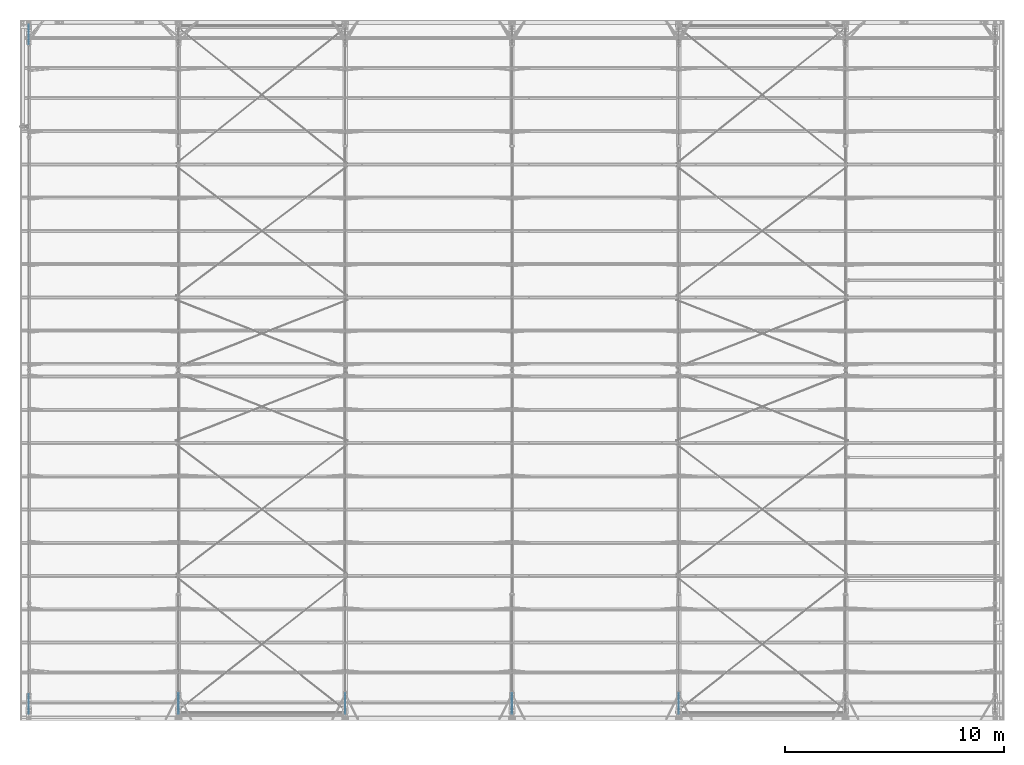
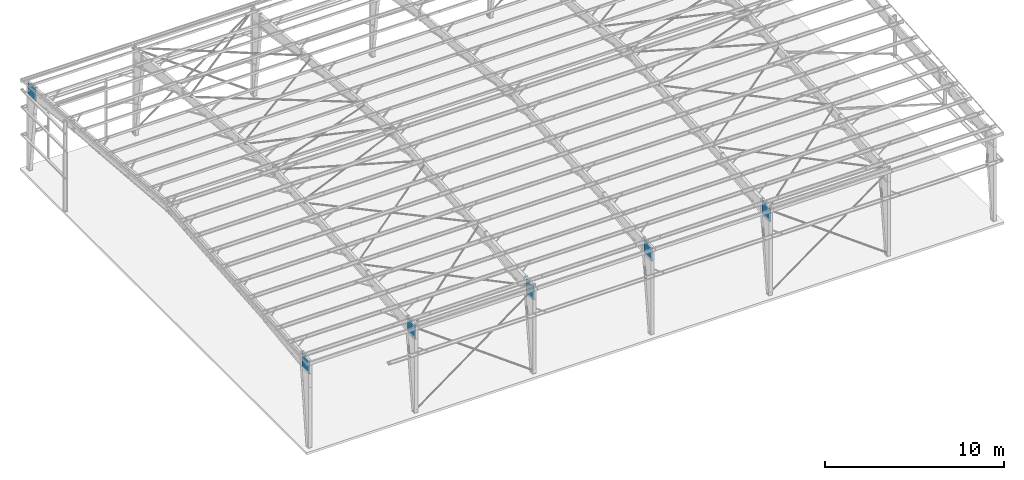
# One storey, part 1 of 185: 6 columns, 6 elements without a shape of their own.
"""IFC2X3 building model written with IfcOpenShell, lengths in millimetres."""

from ifc_helpers import new_model, si_unit, frame, origin_with_axes, origin_2d_with_axis, place, context, subcontext, project, spatial, rectangle, extrude, clip, halfspace, material, type_object, element, aggregate, save


model = new_model("IFC2X3")

# Units and contexts
model_context = context("Model", 3, precision=1e-05, world=origin_with_axes())
body_context = subcontext(model_context, "Body", "Model", "MODEL_VIEW")
ifc_project = project(units=[si_unit("LENGTHUNIT", "METRE", prefix="MILLI"), si_unit("AREAUNIT", "SQUARE_METRE"), si_unit("VOLUMEUNIT", "CUBIC_METRE"), si_unit("MASSUNIT", "GRAM", prefix="KILO"), si_unit("TIMEUNIT", "SECOND"), si_unit("PLANEANGLEUNIT", "RADIAN"), si_unit("SOLIDANGLEUNIT", "STERADIAN"), si_unit("THERMODYNAMICTEMPERATUREUNIT", "DEGREE_CELSIUS"), si_unit("LUMINOUSINTENSITYUNIT", "LUMEN")], contexts=[model_context])

# Site, building, storey
site_placement = place(None, origin_with_axes())
site = spatial("IfcSite", under=ifc_project, at=site_placement, Name="Undefined", CompositionType="ELEMENT")
building_placement = place(site_placement, origin_with_axes())
building = spatial("IfcBuilding", under=site, at=building_placement, Name="Undefined", CompositionType="ELEMENT")
storey_placement = place(building_placement, origin_with_axes())
storey = spatial("IfcBuildingStorey", under=building, at=storey_placement, Name="Undefined", CompositionType="ELEMENT", Elevation=0.0)

# Assembly, column
assembly_1_placement = place(storey_placement, origin_with_axes())
assembly_1 = element("IfcElementAssembly", 1, at=assembly_1_placement, inside=storey, Name="Steel Assembly", AssemblyPlace="NOTDEFINED", PredefinedType="RIGID_FRAME")
ifc_material = material(Name="STEEL/55")
column_type_1 = type_object("IfcColumnType", Name="PL1/4\"X35\"", PredefinedType="NOTDEFINED")
column_1_placement = place(assembly_1_placement, frame((406.400000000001, 755.650000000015, 4994.54898109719), z_axis=(0.0, 0.0, 1.0), x_axis=(0.0, -1.0, 0.0)))
column_1 = element("IfcColumn", 2, at=column_1_placement, type_object=column_type_1, material=ifc_material, Name="Web", ObjectType="PL1/4\"X35\"", context=body_context, shape_type="Clipping", body=[
    clip(extrude(rectangle(XDim=6.35, YDim=889.0, at=origin_2d_with_axis()), frame((0.0, 0.0, 991.557590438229), z_axis=(0.0, 0.0, -1.0), x_axis=(0.0, 1.0, 0.0)), (0.0, 0.0, 1.0), 991.6), halfspace(frame((755.122661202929, 0.0, 891.218618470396), z_axis=(-0.0830454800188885, 0.0, -0.996545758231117), x_axis=(0.0, 1.0, 0.0)), True)),
])
aggregate(assembly_1, [column_1])

assembly_2_placement = place(storey_placement, origin_with_axes())
assembly_2 = element("IfcElementAssembly", 3, at=assembly_2_placement, inside=storey, Name="Steel Assembly", AssemblyPlace="NOTDEFINED", PredefinedType="RIGID_FRAME")
column_2_placement = place(assembly_2_placement, frame((406.4, 31349.95, 4986.08231443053), z_axis=(0.0, 0.0, 1.0), x_axis=(0.0, 1.0, 0.0)))
column_2 = element("IfcColumn", 4, at=column_2_placement, type_object=column_type_1, material=ifc_material, Name="Web", ObjectType="PL1/4\"X35\"", context=body_context, shape_type="Clipping", body=[
    clip(extrude(rectangle(XDim=6.35, YDim=889.0, at=origin_2d_with_axis()), frame((0.0, 0.0, 991.557590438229), z_axis=(0.0, 0.0, -1.0), x_axis=(0.0, 1.0, 0.0)), (0.0, 0.0, 1.0), 991.6), halfspace(frame((653.522661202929, 0.0, 899.685285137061), z_axis=(-0.0830454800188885, 0.0, -0.996545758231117), x_axis=(0.0, 1.0, 0.0)), True)),
])
aggregate(assembly_2, [column_2])

assembly_3_placement = place(storey_placement, origin_with_axes())
assembly_3 = element("IfcElementAssembly", 5, at=assembly_3_placement, inside=storey, Name="Steel Assembly", AssemblyPlace="NOTDEFINED", PredefinedType="RIGID_FRAME")
column_type_2 = type_object("IfcColumnType", Name="PL5/16\"X37\"", PredefinedType="NOTDEFINED")
column_3_placement = place(assembly_3_placement, frame((30099.0, 782.574, 4992.99615112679), z_axis=(0.0, 0.0, 1.0), x_axis=(0.0, -1.0, 0.0)))
column_3 = element("IfcColumn", 6, at=column_3_placement, type_object=column_type_2, material=ifc_material, Name="Web", ObjectType="PL5/16\"X37\"", context=body_context, shape_type="Clipping", body=[
    clip(extrude(rectangle(XDim=7.9375, YDim=939.8, at=origin_2d_with_axis()), frame((0.0, 0.0, 995.886173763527), z_axis=(0.0, 0.0, -1.0), x_axis=(0.0, 1.0, 0.0)), (0.0, 0.0, 1.0), 995.9), halfspace(frame((781.913771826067, 0.0, 891.176775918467), z_axis=(-0.0830454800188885, 0.0, -0.996545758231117), x_axis=(0.0, 1.0, 0.0)), True)),
])
aggregate(assembly_3, [column_3])

assembly_4_placement = place(storey_placement, origin_with_axes())
assembly_4 = element("IfcElementAssembly", 7, at=assembly_4_placement, inside=storey, Name="Steel Assembly", AssemblyPlace="NOTDEFINED", PredefinedType="RIGID_FRAME")
column_4_placement = place(assembly_4_placement, frame((22479.0, 782.574, 4992.99615112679), z_axis=(0.0, 0.0, 1.0), x_axis=(0.0, -1.0, 0.0)))
column_4 = element("IfcColumn", 8, at=column_4_placement, type_object=column_type_2, material=ifc_material, Name="Web", ObjectType="PL5/16\"X37\"", context=body_context, shape_type="Clipping", body=[
    clip(extrude(rectangle(XDim=7.9375, YDim=939.8, at=origin_2d_with_axis()), frame((0.0, 0.0, 995.886173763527), z_axis=(0.0, 0.0, -1.0), x_axis=(0.0, 1.0, 0.0)), (0.0, 0.0, 1.0), 995.9), halfspace(frame((781.913771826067, 0.0, 891.176775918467), z_axis=(-0.0830454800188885, 0.0, -0.996545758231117), x_axis=(0.0, 1.0, 0.0)), True)),
])
aggregate(assembly_4, [column_4])

assembly_5_placement = place(storey_placement, origin_with_axes())
assembly_5 = element("IfcElementAssembly", 9, at=assembly_5_placement, inside=storey, Name="Steel Assembly", AssemblyPlace="NOTDEFINED", PredefinedType="RIGID_FRAME")
column_5_placement = place(assembly_5_placement, frame((14859.0, 782.574, 4992.99615112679), z_axis=(0.0, 0.0, 1.0), x_axis=(0.0, -1.0, 0.0)))
column_5 = element("IfcColumn", 10, at=column_5_placement, type_object=column_type_2, material=ifc_material, Name="Web", ObjectType="PL5/16\"X37\"", context=body_context, shape_type="Clipping", body=[
    clip(extrude(rectangle(XDim=7.9375, YDim=939.8, at=origin_2d_with_axis()), frame((0.0, 0.0, 995.886173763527), z_axis=(0.0, 0.0, -1.0), x_axis=(0.0, 1.0, 0.0)), (0.0, 0.0, 1.0), 995.9), halfspace(frame((781.913771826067, 0.0, 891.176775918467), z_axis=(-0.0830454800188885, 0.0, -0.996545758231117), x_axis=(0.0, 1.0, 0.0)), True)),
])
aggregate(assembly_5, [column_5])

assembly_6_placement = place(storey_placement, origin_with_axes())
assembly_6 = element("IfcElementAssembly", 11, at=assembly_6_placement, inside=storey, Name="Steel Assembly", AssemblyPlace="NOTDEFINED", PredefinedType="RIGID_FRAME")
column_6_placement = place(assembly_6_placement, frame((7239.0, 782.574, 4992.99615112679), z_axis=(0.0, 0.0, 1.0), x_axis=(0.0, -1.0, 0.0)))
column_6 = element("IfcColumn", 12, at=column_6_placement, type_object=column_type_2, material=ifc_material, Name="Web", ObjectType="PL5/16\"X37\"", context=body_context, shape_type="Clipping", body=[
    clip(extrude(rectangle(XDim=7.9375, YDim=939.8, at=origin_2d_with_axis()), frame((0.0, 0.0, 995.886173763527), z_axis=(0.0, 0.0, -1.0), x_axis=(0.0, 1.0, 0.0)), (0.0, 0.0, 1.0), 995.9), halfspace(frame((781.913771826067, 0.0, 891.176775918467), z_axis=(-0.0830454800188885, 0.0, -0.996545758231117), x_axis=(0.0, 1.0, 0.0)), True)),
])
aggregate(assembly_6, [column_6])

save(model, "model.ifc")
